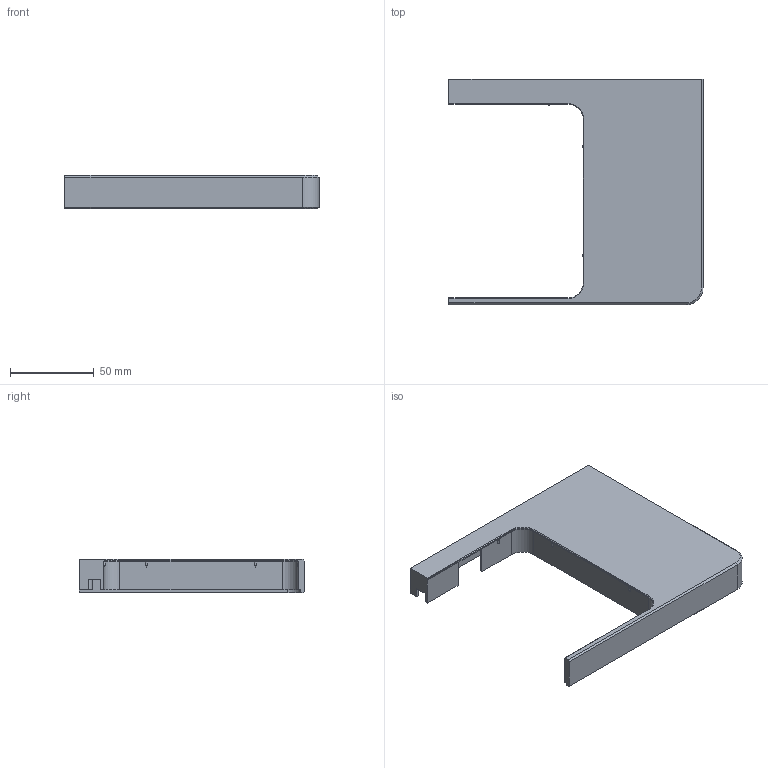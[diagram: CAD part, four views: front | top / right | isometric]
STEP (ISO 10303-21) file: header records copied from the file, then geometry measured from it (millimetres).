
FILE_DESCRIPTION(('Open CASCADE Model'),'2;1');
FILE_NAME('top_FR','2026-11-19T00:45:41',('Author'),('Open CASCADE'), 'Open CASCADE STEP processor 8.0','build123d','Unknown');
FILE_SCHEMA(('AUTOMOTIVE_DESIGN { 1 0 10303 214 1 1 1 1 }'));
Length unit declared in the file: millimetre
Products named in the file (1): top_FR
Bounding box: 151.68 x 134.53 x 19.75 mm (x, y, z)
Volume: 68698.6 mm3; surface area: 79165.3 mm2
Topology: 1 solids, 1 shells, 269 faces, 673 edges, 446 vertices
Faces by surface type: plane 223, cylinder 38, cone 8
Full cylindrical faces by diameter (mm): 4.2 x9, 7.5 x1
Entity records: 16447 total; most frequent: CARTESIAN_POINT 3481, DIRECTION 2163, LINE 1399, VECTOR 1399, ORIENTED_EDGE 1346, PCURVE 1346, DEFINITIONAL_REPRESENTATION 1346, EDGE_CURVE 673
